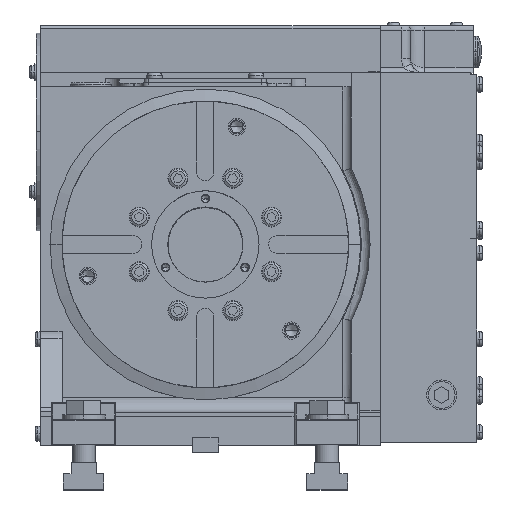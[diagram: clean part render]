
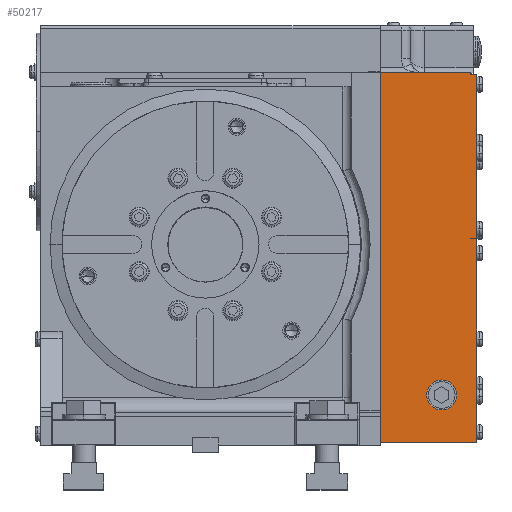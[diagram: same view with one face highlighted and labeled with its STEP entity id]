
A CAD part, top view. The second image highlights one B-rep face of the part: STEP entity #50217.
In plain terms, the highlighted planar face has unit normal (0, 0, 1) as drawn and (-1, 0, 0) by its records, which use the part's own axes.
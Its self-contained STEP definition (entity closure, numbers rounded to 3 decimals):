
#2245 = CIRCLE ( 'NONE', #70573, 10.468 ) ;
#2456 = CARTESIAN_POINT ( 'NONE',  ( 0., 0., 65. ) ) ;
#2601 = EDGE_CURVE ( 'NONE', #65447, #26891, #49861, .T. ) ;
#4000 = VECTOR ( 'NONE', #15017, 1000. ) ;
#4219 = VERTEX_POINT ( 'NONE', #57207 ) ;
#4689 = CARTESIAN_POINT ( 'NONE',  ( 0., 0., 67.5 ) ) ;
#4767 = ORIENTED_EDGE ( 'NONE', *, *, #77336, .F. ) ;
#5640 = VERTEX_POINT ( 'NONE', #36979 ) ;
#5673 = EDGE_LOOP ( 'NONE', ( #79875, #8568 ) ) ;
#6658 = VECTOR ( 'NONE', #63973, 1000. ) ;
#8568 = ORIENTED_EDGE ( 'NONE', *, *, #2601, .F. ) ;
#9030 = EDGE_CURVE ( 'NONE', #90185, #91461, #85448, .T. ) ;
#9994 = EDGE_CURVE ( 'NONE', #79249, #90185, #75827, .T. ) ;
#10130 = DIRECTION ( 'NONE',  ( 0., 0., -1. ) ) ;
#12171 = CARTESIAN_POINT ( 'NONE',  ( 0., 0., 0. ) ) ;
#12413 = CARTESIAN_POINT ( 'NONE',  ( 0., 142.5, 63. ) ) ;
#14944 = CARTESIAN_POINT ( 'NONE',  ( 0., 33., 32.532 ) ) ;
#15017 = DIRECTION ( 'NONE',  ( 0., 0., -1. ) ) ;
#16047 = VERTEX_POINT ( 'NONE', #70452 ) ;
#16765 = LINE ( 'NONE', #95367, #34095 ) ;
#17265 = ORIENTED_EDGE ( 'NONE', *, *, #18622, .F. ) ;
#17365 = DIRECTION ( 'NONE',  ( 0., 0., -1. ) ) ;
#17748 = VECTOR ( 'NONE', #57490, 1000. ) ;
#18622 = EDGE_CURVE ( 'NONE', #75860, #91461, #88152, .T. ) ;
#20193 = EDGE_CURVE ( 'NONE', #79249, #4219, #94635, .T. ) ;
#24956 = CARTESIAN_POINT ( 'NONE',  ( 0., 0., 65. ) ) ;
#26891 = VERTEX_POINT ( 'NONE', #79269 ) ;
#29176 = CARTESIAN_POINT ( 'NONE',  ( 0., 33., 43. ) ) ;
#31050 = CARTESIAN_POINT ( 'NONE',  ( 0., 142., 63. ) ) ;
#31328 = ORIENTED_EDGE ( 'NONE', *, *, #9030, .T. ) ;
#34050 = EDGE_CURVE ( 'NONE', #26891, #65447, #2245, .T. ) ;
#34095 = VECTOR ( 'NONE', #43505, 1000. ) ;
#35508 = VECTOR ( 'NONE', #60032, 1000. ) ;
#35764 = CARTESIAN_POINT ( 'NONE',  ( 0., 258., 63. ) ) ;
#36619 = DIRECTION ( 'NONE',  ( 0., 0., 1. ) ) ;
#36979 = CARTESIAN_POINT ( 'NONE',  ( 0., 257., 67.5 ) ) ;
#37069 = LINE ( 'NONE', #39845, #54371 ) ;
#37085 = VECTOR ( 'NONE', #41017, 1000. ) ;
#38492 = AXIS2_PLACEMENT_3D ( 'NONE', #2456, #61760, #17365 ) ;
#38743 = CARTESIAN_POINT ( 'NONE',  ( 0., 33., 43. ) ) ;
#39283 = ORIENTED_EDGE ( 'NONE', *, *, #52420, .T. ) ;
#39537 = CARTESIAN_POINT ( 'NONE',  ( 0., 258., 0. ) ) ;
#39842 = CARTESIAN_POINT ( 'NONE',  ( 0., 142.5, 67.5 ) ) ;
#39845 = CARTESIAN_POINT ( 'NONE',  ( 0., 142.5, 67.5 ) ) ;
#39954 = LINE ( 'NONE', #68692, #50373 ) ;
#41017 = DIRECTION ( 'NONE',  ( 0., -1., 0. ) ) ;
#41530 = EDGE_CURVE ( 'NONE', #5640, #90207, #56757, .T. ) ;
#43505 = DIRECTION ( 'NONE',  ( 0., 0., -1. ) ) ;
#46195 = DIRECTION ( 'NONE',  ( 0., 0., 1. ) ) ;
#48122 = CARTESIAN_POINT ( 'NONE',  ( 0., 257., 67.5 ) ) ;
#49861 = CIRCLE ( 'NONE', #72032, 10.468 ) ;
#50010 = CARTESIAN_POINT ( 'NONE',  ( 0., -187.632, 63. ) ) ;
#50217 = ADVANCED_FACE ( 'NONE', ( #77778, #58014 ), #91217, .F. ) ;
#50373 = VECTOR ( 'NONE', #90763, 1000. ) ;
#50651 = ORIENTED_EDGE ( 'NONE', *, *, #86239, .T. ) ;
#52038 = ORIENTED_EDGE ( 'NONE', *, *, #41530, .F. ) ;
#52420 = EDGE_CURVE ( 'NONE', #5640, #4219, #60819, .T. ) ;
#52524 = CARTESIAN_POINT ( 'NONE',  ( 0., -187.632, 63. ) ) ;
#53676 = VECTOR ( 'NONE', #55025, 1000. ) ;
#54371 = VECTOR ( 'NONE', #76878, 1000. ) ;
#55025 = DIRECTION ( 'NONE',  ( 0., 0., -1. ) ) ;
#56757 = LINE ( 'NONE', #48122, #37085 ) ;
#57207 = CARTESIAN_POINT ( 'NONE',  ( 0., 257., 63. ) ) ;
#57490 = DIRECTION ( 'NONE',  ( 0., -1., 0. ) ) ;
#58014 = FACE_OUTER_BOUND ( 'NONE', #84875, .T. ) ;
#59378 = CARTESIAN_POINT ( 'NONE',  ( 0., 257., 67.5 ) ) ;
#60032 = DIRECTION ( 'NONE',  ( 0., -1., 0. ) ) ;
#60819 = LINE ( 'NONE', #59378, #4000 ) ;
#61760 = DIRECTION ( 'NONE',  ( 1., 0., 0. ) ) ;
#63973 = DIRECTION ( 'NONE',  ( 0., -1., 0. ) ) ;
#65447 = VERTEX_POINT ( 'NONE', #14944 ) ;
#67243 = ORIENTED_EDGE ( 'NONE', *, *, #9994, .T. ) ;
#68082 = VERTEX_POINT ( 'NONE', #12413 ) ;
#68692 = CARTESIAN_POINT ( 'NONE',  ( 0., 0., 67.5 ) ) ;
#68825 = ORIENTED_EDGE ( 'NONE', *, *, #71259, .F. ) ;
#70452 = CARTESIAN_POINT ( 'NONE',  ( 0., 142., 67.5 ) ) ;
#70573 = AXIS2_PLACEMENT_3D ( 'NONE', #29176, #81031, #36619 ) ;
#71259 = EDGE_CURVE ( 'NONE', #90207, #68082, #37069, .T. ) ;
#71381 = CARTESIAN_POINT ( 'NONE',  ( 0., 0., 0. ) ) ;
#72032 = AXIS2_PLACEMENT_3D ( 'NONE', #38743, #90610, #46195 ) ;
#75827 = LINE ( 'NONE', #91995, #53676 ) ;
#75860 = VERTEX_POINT ( 'NONE', #4689 ) ;
#76878 = DIRECTION ( 'NONE',  ( 0., 0., -1. ) ) ;
#76928 = LINE ( 'NONE', #50010, #17748 ) ;
#77336 = EDGE_CURVE ( 'NONE', #68082, #95459, #76928, .T. ) ;
#77778 = FACE_BOUND ( 'NONE', #5673, .T. ) ;
#79249 = VERTEX_POINT ( 'NONE', #35764 ) ;
#79269 = CARTESIAN_POINT ( 'NONE',  ( 0., 33., 53.468 ) ) ;
#79875 = ORIENTED_EDGE ( 'NONE', *, *, #34050, .F. ) ;
#81031 = DIRECTION ( 'NONE',  ( -1., 0., 0. ) ) ;
#84875 = EDGE_LOOP ( 'NONE', ( #96016, #67243, #31328, #17265, #87264, #50651, #4767, #68825, #52038, #39283 ) ) ;
#85448 = LINE ( 'NONE', #71381, #6658 ) ;
#85819 = VECTOR ( 'NONE', #10130, 1000. ) ;
#86239 = EDGE_CURVE ( 'NONE', #16047, #95459, #16765, .T. ) ;
#86516 = EDGE_CURVE ( 'NONE', #16047, #75860, #39954, .T. ) ;
#87264 = ORIENTED_EDGE ( 'NONE', *, *, #86516, .F. ) ;
#88152 = LINE ( 'NONE', #24956, #85819 ) ;
#90185 = VERTEX_POINT ( 'NONE', #39537 ) ;
#90207 = VERTEX_POINT ( 'NONE', #39842 ) ;
#90610 = DIRECTION ( 'NONE',  ( -1., 0., 0. ) ) ;
#90763 = DIRECTION ( 'NONE',  ( 0., -1., 0. ) ) ;
#91217 = PLANE ( 'NONE',  #38492 ) ;
#91461 = VERTEX_POINT ( 'NONE', #12171 ) ;
#91995 = CARTESIAN_POINT ( 'NONE',  ( 0., 258., 65. ) ) ;
#94635 = LINE ( 'NONE', #52524, #35508 ) ;
#95367 = CARTESIAN_POINT ( 'NONE',  ( 0., 142., 67.5 ) ) ;
#95459 = VERTEX_POINT ( 'NONE', #31050 ) ;
#96016 = ORIENTED_EDGE ( 'NONE', *, *, #20193, .F. ) ;
